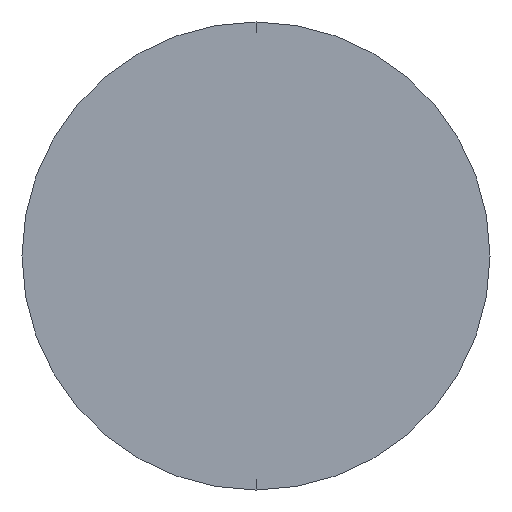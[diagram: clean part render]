
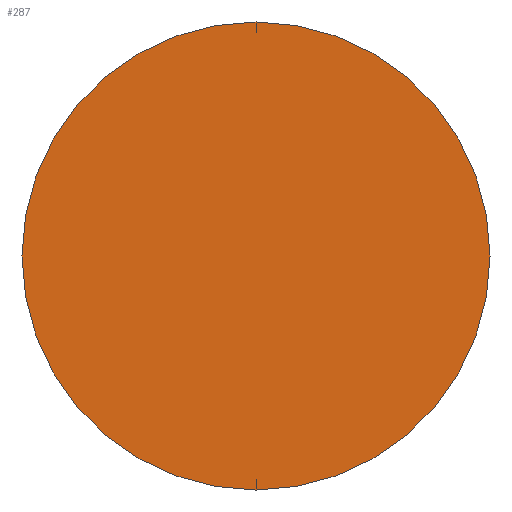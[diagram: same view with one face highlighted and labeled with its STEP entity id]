
A CAD part, left-side view. The second image highlights one B-rep face of the part: STEP entity #287.
In plain terms, the highlighted planar face has unit normal (-1, 0, 0).
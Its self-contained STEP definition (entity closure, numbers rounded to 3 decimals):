
#2 = PLANE ( 'NONE',  #134 ) ;
#9 = DIRECTION ( 'NONE',  ( -1., 0., 0. ) ) ;
#10 = DIRECTION ( 'NONE',  ( 0., 0., -1. ) ) ;
#11 = DIRECTION ( 'NONE',  ( 1., 0., 0. ) ) ;
#16 = VERTEX_POINT ( 'NONE', #179 ) ;
#30 = DIRECTION ( 'NONE',  ( -1., 0., 0. ) ) ;
#39 = CIRCLE ( 'NONE', #151, 1.75 ) ;
#49 = DIRECTION ( 'NONE',  ( 0., 0., 1. ) ) ;
#61 = CARTESIAN_POINT ( 'NONE',  ( 0., 0., 0. ) ) ;
#78 = CARTESIAN_POINT ( 'NONE',  ( 0., 0., -1.75 ) ) ;
#81 = CIRCLE ( 'NONE', #276, 1.75 ) ;
#93 = CARTESIAN_POINT ( 'NONE',  ( 0., 0., 0. ) ) ;
#109 = CARTESIAN_POINT ( 'NONE',  ( 0., 0., 0. ) ) ;
#111 = FACE_OUTER_BOUND ( 'NONE', #203, .T. ) ;
#113 = VERTEX_POINT ( 'NONE', #78 ) ;
#134 = AXIS2_PLACEMENT_3D ( 'NONE', #109, #11, #10 ) ;
#151 = AXIS2_PLACEMENT_3D ( 'NONE', #61, #9, #162 ) ;
#162 = DIRECTION ( 'NONE',  ( 0., 0., 1. ) ) ;
#167 = ORIENTED_EDGE ( 'NONE', *, *, #191, .T. ) ;
#179 = CARTESIAN_POINT ( 'NONE',  ( 0., 0., 1.75 ) ) ;
#185 = ORIENTED_EDGE ( 'NONE', *, *, #238, .T. ) ;
#191 = EDGE_CURVE ( 'NONE', #113, #16, #39, .T. ) ;
#203 = EDGE_LOOP ( 'NONE', ( #185, #167 ) ) ;
#238 = EDGE_CURVE ( 'NONE', #16, #113, #81, .T. ) ;
#276 = AXIS2_PLACEMENT_3D ( 'NONE', #93, #30, #49 ) ;
#287 = ADVANCED_FACE ( 'NONE', ( #111 ), #2, .F. ) ;
